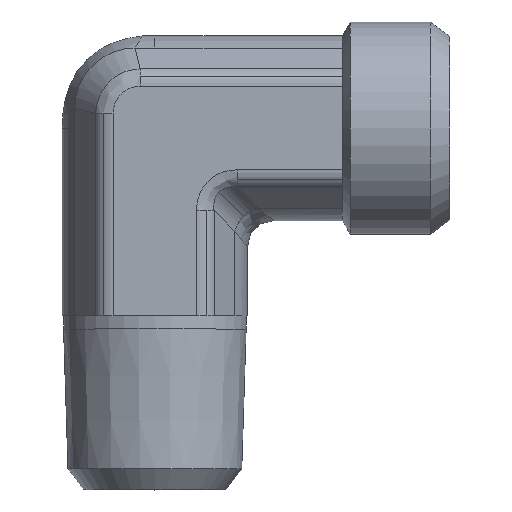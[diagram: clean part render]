
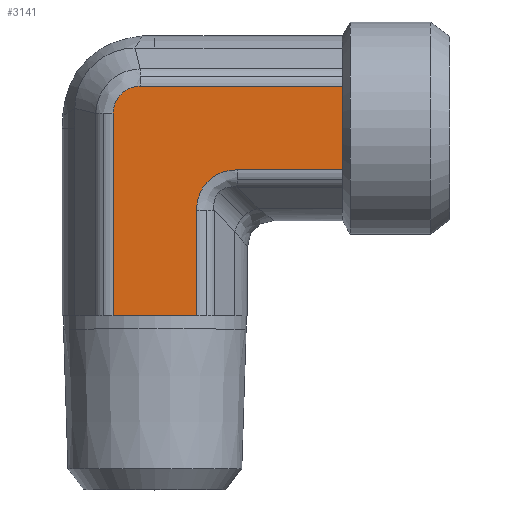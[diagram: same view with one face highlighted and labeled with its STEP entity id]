
A CAD part, top view. The second image highlights one B-rep face of the part: STEP entity #3141.
In plain terms, the highlighted planar face has unit normal (0, 0, 1) as drawn and (0, -1, 0) by its records, which use the part's own axes.
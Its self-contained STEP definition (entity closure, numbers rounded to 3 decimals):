
#361=CARTESIAN_POINT('',(1.649,-6.9,3.118));
#362=VERTEX_POINT('',#361);
#370=CARTESIAN_POINT('',(9.5,-6.9,3.118));
#371=VERTEX_POINT('',#370);
#372=CARTESIAN_POINT('',(1.649,-6.9,3.118));
#373=DIRECTION('',(1.0,0.0,0.0));
#374=VECTOR('',#373,7.851);
#375=LINE('',#372,#374);
#376=EDGE_CURVE('',#362,#371,#375,.T.);
#485=CARTESIAN_POINT('',(-7.618,-6.9,-1.091));
#486=VERTEX_POINT('',#485);
#494=CARTESIAN_POINT('',(-7.618,-6.9,14.0));
#495=VERTEX_POINT('',#494);
#496=CARTESIAN_POINT('',(-7.618,-6.9,-1.091));
#497=DIRECTION('',(0.0,0.0,1.0));
#498=VECTOR('',#497,15.091);
#499=LINE('',#496,#498);
#500=EDGE_CURVE('',#486,#495,#499,.T.);
#2086=CARTESIAN_POINT('',(-4.5,-6.9,14.0));
#2087=VERTEX_POINT('',#2086);
#2213=CARTESIAN_POINT('',(-4.5,-6.9,14.0));
#2214=DIRECTION('',(-1.0,0.0,0.0));
#2215=VECTOR('',#2214,3.118);
#2216=LINE('',#2213,#2215);
#2217=EDGE_CURVE('',#2087,#495,#2216,.T.);
#2290=CARTESIAN_POINT('',(-1.382,-6.9,14.0));
#2291=VERTEX_POINT('',#2290);
#2292=CARTESIAN_POINT('',(-1.382,-6.9,14.0));
#2293=DIRECTION('',(-1.0,0.0,0.0));
#2294=VECTOR('',#2293,3.118);
#2295=LINE('',#2292,#2294);
#2296=EDGE_CURVE('',#2291,#2087,#2295,.T.);
#2384=CARTESIAN_POINT('',(9.5,-6.9,-3.118));
#2385=VERTEX_POINT('',#2384);
#2386=CARTESIAN_POINT('',(9.5,-6.9,-3.118));
#2387=DIRECTION('',(0.0,0.0,1.0));
#2388=VECTOR('',#2387,6.235);
#2389=LINE('',#2386,#2388);
#2390=EDGE_CURVE('',#2385,#371,#2389,.T.);
#2826=CARTESIAN_POINT('',(-5.591,-6.9,-3.118));
#2827=VERTEX_POINT('',#2826);
#2835=CARTESIAN_POINT('',(-7.618,-6.9,-1.091));
#2836=CARTESIAN_POINT('',(-7.618,-6.9,-1.223));
#2837=CARTESIAN_POINT('',(-7.605,-6.9,-1.356));
#2838=CARTESIAN_POINT('',(-7.536,-6.9,-1.695));
#2839=CARTESIAN_POINT('',(-7.462,-6.9,-1.896));
#2840=CARTESIAN_POINT('',(-7.191,-6.9,-2.378));
#2841=CARTESIAN_POINT('',(-6.949,-6.9,-2.631));
#2842=CARTESIAN_POINT('',(-6.339,-6.9,-3.011));
#2843=CARTESIAN_POINT('',(-5.965,-6.9,-3.118));
#2844=CARTESIAN_POINT('',(-5.591,-6.9,-3.118));
#2845=B_SPLINE_CURVE_WITH_KNOTS('',3,(#2835,#2836,#2837,#2838,#2839,#2840,#2841,#2842,#2843,#2844),.UNSPECIFIED.,.F.,.U.,(4,2,2,2,4),(-3.166,-2.771,-2.137,-1.124,0.0),.UNSPECIFIED.);
#2846=EDGE_CURVE('',#2827,#486,#2845,.F.);
#2873=CARTESIAN_POINT('',(9.5,-6.9,-3.118));
#2874=DIRECTION('',(-1.0,0.0,0.0));
#2875=VECTOR('',#2874,15.091);
#2876=LINE('',#2873,#2875);
#2877=EDGE_CURVE('',#2385,#2827,#2876,.T.);
#3009=CARTESIAN_POINT('',(-1.382,-6.9,6.149));
#3010=VERTEX_POINT('',#3009);
#3011=CARTESIAN_POINT('',(-1.382,-6.9,14.0));
#3012=DIRECTION('',(0.0,0.0,-1.0));
#3013=VECTOR('',#3012,7.851);
#3014=LINE('',#3011,#3013);
#3015=EDGE_CURVE('',#2291,#3010,#3014,.T.);
#3098=CARTESIAN_POINT('',(2.659,-6.9,7.159));
#3099=DIRECTION('',(0.,-1.,0.));
#3100=DIRECTION('',(-0.707,0.,-0.707));
#3101=AXIS2_PLACEMENT_3D('',#3098,#3099,#3100);
#3102=ELLIPSE('',#3101,4.518,3.5);
#3103=EDGE_CURVE('',#3010,#362,#3102,.T.);
#3125=CARTESIAN_POINT('',(-4.5,-6.9,-3.175));
#3126=DIRECTION('',(0.0,-1.0,0.0));
#3127=DIRECTION('',(0.0,0.0,-1.0));
#3128=AXIS2_PLACEMENT_3D('',#3125,#3126,#3127);
#3129=PLANE('',#3128);
#3130=ORIENTED_EDGE('',*,*,#2877,.F.);
#3131=ORIENTED_EDGE('',*,*,#2390,.T.);
#3132=ORIENTED_EDGE('',*,*,#376,.F.);
#3133=ORIENTED_EDGE('',*,*,#3103,.F.);
#3134=ORIENTED_EDGE('',*,*,#3015,.F.);
#3135=ORIENTED_EDGE('',*,*,#2296,.T.);
#3136=ORIENTED_EDGE('',*,*,#2217,.T.);
#3137=ORIENTED_EDGE('',*,*,#500,.F.);
#3138=ORIENTED_EDGE('',*,*,#2846,.F.);
#3139=EDGE_LOOP('',(#3130,#3131,#3132,#3133,#3134,#3135,#3136,#3137,#3138));
#3140=FACE_OUTER_BOUND('',#3139,.T.);
#3141=ADVANCED_FACE('',(#3140),#3129,.T.);
